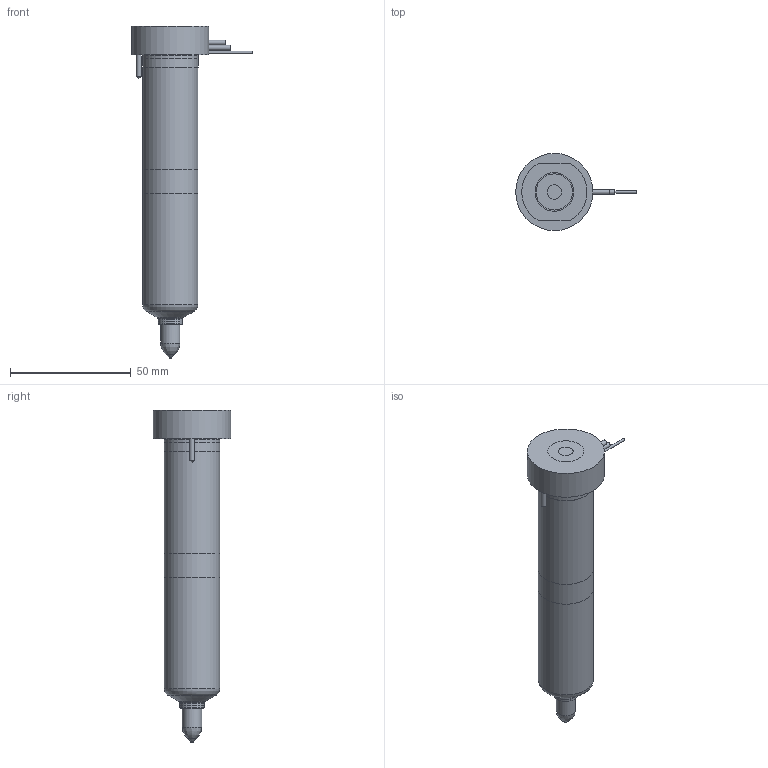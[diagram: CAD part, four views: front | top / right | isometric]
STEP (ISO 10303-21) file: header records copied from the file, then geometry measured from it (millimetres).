
FILE_DESCRIPTION(/* description */ (''),/* implementation_level */ '2;1');
FILE_NAME(/* name */ 'MXTT-MXIT13115-10_200C_b',/* time_stamp */ '2007-01-18T09:52:52+13:00',/* author */ (''),/* organization */ (''),/* preprocessor_version */ 'ST-DEVELOPER v9',/* originating_system */ 'UGS - NX 4.0',/* authorisation */ '');
FILE_SCHEMA (('CONFIG_CONTROL_DESIGN'));
Length unit declared in the file: millimetre
Products named in the file (1): MXTT-MXIT13115-10_200C_b
Bounding box: 49.95 x 32 x 137.53 mm (x, y, z)
Volume: 95224.6 mm3; surface area: 22218.6 mm2
Topology: 7 solids, 7 shells, 86 faces, 162 edges, 102 vertices
Faces by surface type: plane 35, cylinder 29, cone 12, torus 8, bspline 2
Full cylindrical faces by diameter (mm): 0.9 x1, 1 x3, 2 x4, 5.5 x1, 6 x1, 8 x1, 9.61 x1, 10.01 x2, 12.6 x1, 18.8 x1, 22.9 x2, 23 x2, 32 x1
Entity records: 2065 total; most frequent: CARTESIAN_POINT 423, DIRECTION 352, ORIENTED_EDGE 228, AXIS2_PLACEMENT_3D 163, EDGE_LOOP 138, EDGE_CURVE 114, VERTEX_POINT 95, ADVANCED_FACE 86
